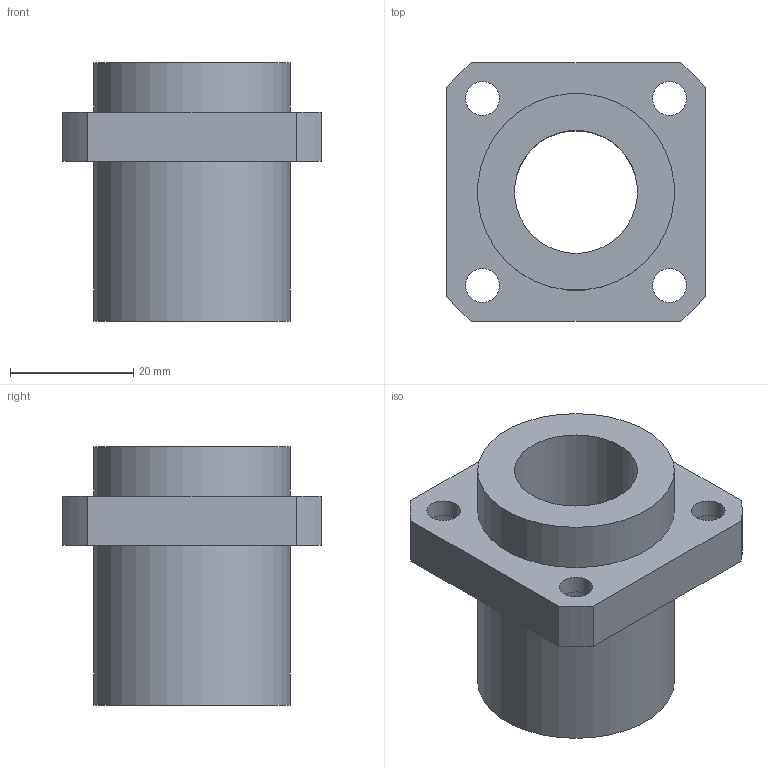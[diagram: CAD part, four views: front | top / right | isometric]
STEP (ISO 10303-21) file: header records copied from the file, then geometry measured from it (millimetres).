
FILE_DESCRIPTION(/* description */ (''),/* implementation_level */ '2;1');
FILE_NAME(/* name */ 'LMKP20UU',/* time_stamp */ '2019-07-10T08:51:41+02:00',/* author */ ('VĂ©gh MĂˇtĂ©'),/* organization */ ('Bearing Kft'),/* preprocessor_version */ 'ST-DEVELOPER v16.7',/* originating_system */ 'DEX',/* authorisation */ $);
FILE_SCHEMA (('AUTOMOTIVE_DESIGN {1 0 10303 214 3 1 1}'));
Length unit declared in the file: millimetre
Products named in the file (1): LMKP20UU
Bounding box: 42 x 42 x 42 mm (x, y, z)
Volume: 26445.8 mm3; surface area: 10765.1 mm2
Topology: 1 solids, 1 shells, 336 faces, 844 edges, 564 vertices
Faces by surface type: plane 256, bspline 63, cylinder 17
Full cylindrical faces by diameter (mm): 5.5 x4, 9 x4, 20 x1, 32 x2
Entity records: 12684 total; most frequent: CARTESIAN_POINT 5030, ORIENTED_EDGE 1652, DIRECTION 1282, EDGE_CURVE 826, LINE 666, VECTOR 666, VERTEX_POINT 560, EDGE_LOOP 414
